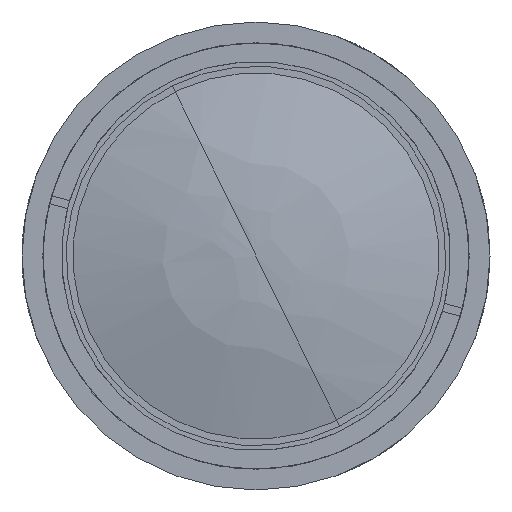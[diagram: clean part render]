
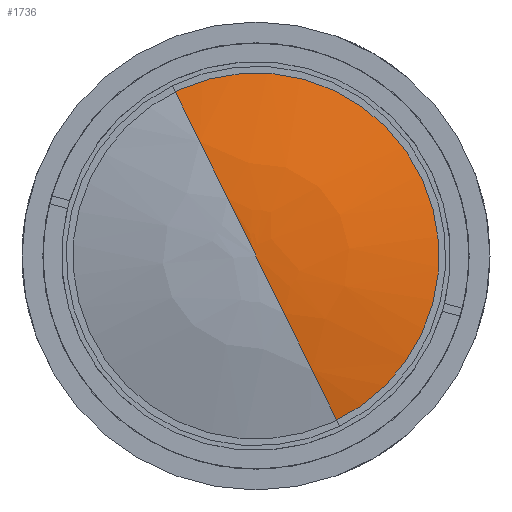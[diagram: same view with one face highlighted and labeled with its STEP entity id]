
A CAD part, left-side view. The second image highlights one B-rep face of the part: STEP entity #1736.
In plain terms, the highlighted free-form (B-spline) face has degree [2, 2] with [3, 7] control points.
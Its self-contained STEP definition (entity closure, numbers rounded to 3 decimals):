
#1736=ADVANCED_FACE('',(#3605),#3606,.F.);
#3605=FACE_OUTER_BOUND('',#11577,.T.);
#3606=(B_SPLINE_SURFACE(2,2,((#11579,#11580,#11581,#11582,#11583,#11584,#11585),(#11586,#11587,#11588,#11589,#11590,#11591,#11592),(#11593,#11594,#11595,#11596,#11597,#11598,#11599)),.UNSPECIFIED.,.F.,.F.,.F.)B_SPLINE_SURFACE_WITH_KNOTS((3,3),(3,2,2,3),(0.0,0.106),(0.0,0.25,0.5,0.5),.UNSPECIFIED.)RATIONAL_B_SPLINE_SURFACE(((0.899,0.636,0.899,0.636,0.899,0.899,0.899),(0.936,0.662,0.936,0.662,0.936,0.936,0.936),(1.0,0.707,1.0,0.707,1.0,1.,1.)))BOUNDED_SURFACE()REPRESENTATION_ITEM('')GEOMETRIC_REPRESENTATION_ITEM()SURFACE());
#11577=EDGE_LOOP('',(#16104,#16105,#16106));
#11579=CARTESIAN_POINT('',(-33.822,8.91,18.25));
#11580=CARTESIAN_POINT('',(-33.822,27.16,18.25));
#11581=CARTESIAN_POINT('',(-33.822,27.16,0.));
#11582=CARTESIAN_POINT('',(-33.822,27.16,-18.25));
#11583=CARTESIAN_POINT('',(-33.822,8.91,-18.25));
#11584=CARTESIAN_POINT('',(-33.822,8.91,-18.25));
#11585=CARTESIAN_POINT('',(-33.822,8.91,-18.25));
#11586=CARTESIAN_POINT('',(-36.562,8.91,9.329));
#11587=CARTESIAN_POINT('',(-36.562,18.24,9.329));
#11588=CARTESIAN_POINT('',(-36.562,18.24,0.));
#11589=CARTESIAN_POINT('',(-36.562,18.24,-9.329));
#11590=CARTESIAN_POINT('',(-36.562,8.91,-9.329));
#11591=CARTESIAN_POINT('',(-36.562,8.91,-9.329));
#11592=CARTESIAN_POINT('',(-36.562,8.91,-9.329));
#11593=CARTESIAN_POINT('',(-36.342,8.91,0.));
#11594=CARTESIAN_POINT('',(-36.342,8.91,0.));
#11595=CARTESIAN_POINT('',(-36.342,8.91,0.));
#11596=CARTESIAN_POINT('',(-36.342,8.91,0.));
#11597=CARTESIAN_POINT('',(-36.342,8.91,0.));
#11598=CARTESIAN_POINT('',(-36.342,8.91,0.));
#11599=CARTESIAN_POINT('',(-36.342,8.91,0.));
#16104=ORIENTED_EDGE('',*,*,#20716,.T.);
#16105=ORIENTED_EDGE('',*,*,#20717,.T.);
#16106=ORIENTED_EDGE('',*,*,#20713,.F.);
#20713=EDGE_CURVE('',#24005,#24007,#24008,.T.);
#20716=EDGE_CURVE('',#24005,#24011,#24012,.T.);
#20717=EDGE_CURVE('',#24011,#24007,#24013,.T.);
#24005=VERTEX_POINT('',#35495);
#24007=VERTEX_POINT('',#35498);
#24008=CIRCLE('',#35499,18.25);
#24011=VERTEX_POINT('',#35503);
#24012=CIRCLE('',#35504,57.52);
#24013=CIRCLE('',#35505,57.52);
#35495=CARTESIAN_POINT('',(-33.822,8.91,-18.25));
#35498=CARTESIAN_POINT('',(-33.822,8.91,18.25));
#35499=AXIS2_PLACEMENT_3D('',#41235,#41236,#41237);
#35503=CARTESIAN_POINT('',(-36.342,8.91,0.));
#35504=AXIS2_PLACEMENT_3D('',#41239,#41240,#41241);
#35505=AXIS2_PLACEMENT_3D('',#41242,#41243,#41244);
#41235=CARTESIAN_POINT('',(-33.822,8.91,0.0));
#41236=DIRECTION('',(1.0,0.0,0.0));
#41237=DIRECTION('',(0.0,0.,-1.0));
#41239=CARTESIAN_POINT('',(21.162,8.91,-1.359));
#41240=DIRECTION('',(0.,1.0,0.));
#41241=DIRECTION('',(-0.956,0.,-0.294));
#41242=CARTESIAN_POINT('',(21.162,8.91,1.359));
#41243=DIRECTION('',(0.,1.0,0.));
#41244=DIRECTION('',(-1.,0.,-0.024));
